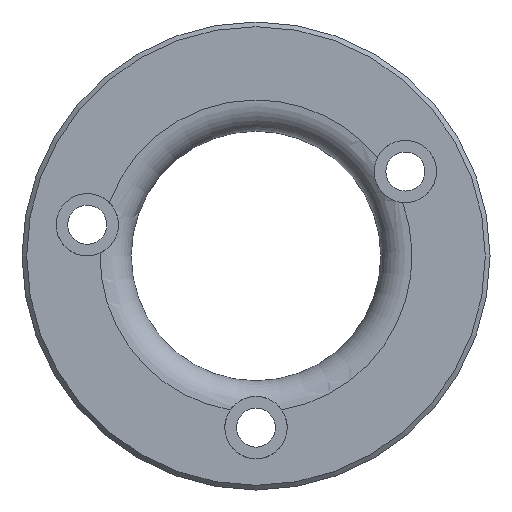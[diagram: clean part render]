
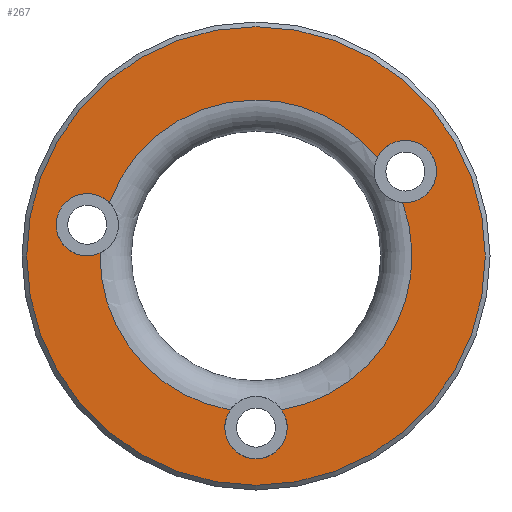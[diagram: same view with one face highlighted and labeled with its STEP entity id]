
A CAD part, front view. The second image highlights one B-rep face of the part: STEP entity #267.
In plain terms, the highlighted planar face has unit normal (0, -1, 0).
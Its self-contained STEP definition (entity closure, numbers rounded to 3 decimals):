
#14 = DIRECTION ( 'NONE',  ( 0., 0., 1. ) ) ;
#22 = VERTEX_POINT ( 'NONE', #149 ) ;
#25 = AXIS2_PLACEMENT_3D ( 'NONE', #501, #200, #419 ) ;
#45 = CARTESIAN_POINT ( 'NONE',  ( 0., 0., 14.7 ) ) ;
#55 = EDGE_CURVE ( 'NONE', #129, #22, #470, .T. ) ;
#56 = DIRECTION ( 'NONE',  ( 0., 1., 0. ) ) ;
#67 = PLANE ( 'NONE',  #497 ) ;
#125 = FACE_BOUND ( 'NONE', #179, .T. ) ;
#128 = DIRECTION ( 'NONE',  ( 0., 0., 1. ) ) ;
#129 = VERTEX_POINT ( 'NONE', #418 ) ;
#130 = CIRCLE ( 'NONE', #518, 2. ) ;
#137 = VERTEX_POINT ( 'NONE', #360 ) ;
#139 = CIRCLE ( 'NONE', #595, 10. ) ;
#144 = EDGE_CURVE ( 'NONE', #137, #528, #582, .T. ) ;
#149 = CARTESIAN_POINT ( 'NONE',  ( -9.998, 0., 0.179 ) ) ;
#156 = DIRECTION ( 'NONE',  ( 0., 0., -1. ) ) ;
#164 = EDGE_CURVE ( 'NONE', #129, #528, #130, .T. ) ;
#175 = CIRCLE ( 'NONE', #197, 2. ) ;
#176 = VERTEX_POINT ( 'NONE', #611 ) ;
#179 = EDGE_LOOP ( 'NONE', ( #384, #521, #531, #538, #361, #623 ) ) ;
#183 = AXIS2_PLACEMENT_3D ( 'NONE', #311, #364, #156 ) ;
#191 = EDGE_LOOP ( 'NONE', ( #250 ) ) ;
#197 = AXIS2_PLACEMENT_3D ( 'NONE', #466, #257, #259 ) ;
#200 = DIRECTION ( 'NONE',  ( 0., -1., 0. ) ) ;
#207 = DIRECTION ( 'NONE',  ( 0., 0., 1. ) ) ;
#214 = DIRECTION ( 'NONE',  ( 0., 0., 1. ) ) ;
#221 = CARTESIAN_POINT ( 'NONE',  ( 0., 0., -11. ) ) ;
#226 = EDGE_CURVE ( 'NONE', #480, #22, #647, .T. ) ;
#230 = CIRCLE ( 'NONE', #25, 14.7 ) ;
#250 = ORIENTED_EDGE ( 'NONE', *, *, #471, .T. ) ;
#256 = VERTEX_POINT ( 'NONE', #45 ) ;
#257 = DIRECTION ( 'NONE',  ( 0., -1., 0. ) ) ;
#259 = DIRECTION ( 'NONE',  ( 0., 0., -1. ) ) ;
#267 = ADVANCED_FACE ( 'NONE', ( #580, #125 ), #67, .F. ) ;
#270 = AXIS2_PLACEMENT_3D ( 'NONE', #613, #56, #14 ) ;
#275 = CARTESIAN_POINT ( 'NONE',  ( 0., 0., 0. ) ) ;
#307 = DIRECTION ( 'NONE',  ( 0., 1., 0. ) ) ;
#310 = CARTESIAN_POINT ( 'NONE',  ( 1.646, 0., -9.864 ) ) ;
#311 = CARTESIAN_POINT ( 'NONE',  ( -10.816, 0., 2.005 ) ) ;
#360 = CARTESIAN_POINT ( 'NONE',  ( 9.395, 0., 3.425 ) ) ;
#361 = ORIENTED_EDGE ( 'NONE', *, *, #144, .T. ) ;
#363 = DIRECTION ( 'NONE',  ( 0., 1., 0. ) ) ;
#364 = DIRECTION ( 'NONE',  ( 0., -1., 0. ) ) ;
#384 = ORIENTED_EDGE ( 'NONE', *, *, #55, .T. ) ;
#418 = CARTESIAN_POINT ( 'NONE',  ( -1.646, 0., -9.864 ) ) ;
#419 = DIRECTION ( 'NONE',  ( 0., 0., 1. ) ) ;
#424 = DIRECTION ( 'NONE',  ( 0., 0., -1. ) ) ;
#430 = DIRECTION ( 'NONE',  ( 0., 1., 0. ) ) ;
#464 = EDGE_CURVE ( 'NONE', #480, #176, #139, .T. ) ;
#466 = CARTESIAN_POINT ( 'NONE',  ( 9.574, 0., 5.417 ) ) ;
#470 = CIRCLE ( 'NONE', #516, 10. ) ;
#471 = EDGE_CURVE ( 'NONE', #256, #256, #230, .T. ) ;
#480 = VERTEX_POINT ( 'NONE', #557 ) ;
#497 = AXIS2_PLACEMENT_3D ( 'NONE', #275, #430, #128 ) ;
#501 = CARTESIAN_POINT ( 'NONE',  ( 0., 0., 0. ) ) ;
#509 = CARTESIAN_POINT ( 'NONE',  ( 0., 0., 0. ) ) ;
#516 = AXIS2_PLACEMENT_3D ( 'NONE', #616, #307, #214 ) ;
#518 = AXIS2_PLACEMENT_3D ( 'NONE', #221, #560, #424 ) ;
#521 = ORIENTED_EDGE ( 'NONE', *, *, #226, .F. ) ;
#528 = VERTEX_POINT ( 'NONE', #310 ) ;
#531 = ORIENTED_EDGE ( 'NONE', *, *, #464, .T. ) ;
#536 = EDGE_CURVE ( 'NONE', #137, #176, #175, .T. ) ;
#538 = ORIENTED_EDGE ( 'NONE', *, *, #536, .F. ) ;
#557 = CARTESIAN_POINT ( 'NONE',  ( -9.399, 0., 3.416 ) ) ;
#560 = DIRECTION ( 'NONE',  ( 0., -1., 0. ) ) ;
#580 = FACE_OUTER_BOUND ( 'NONE', #191, .T. ) ;
#582 = CIRCLE ( 'NONE', #270, 10. ) ;
#595 = AXIS2_PLACEMENT_3D ( 'NONE', #509, #363, #207 ) ;
#611 = CARTESIAN_POINT ( 'NONE',  ( 7.774, 0., 6.29 ) ) ;
#613 = CARTESIAN_POINT ( 'NONE',  ( 0., 0., 0. ) ) ;
#616 = CARTESIAN_POINT ( 'NONE',  ( 0., 0., 0. ) ) ;
#623 = ORIENTED_EDGE ( 'NONE', *, *, #164, .F. ) ;
#647 = CIRCLE ( 'NONE', #183, 2. ) ;
